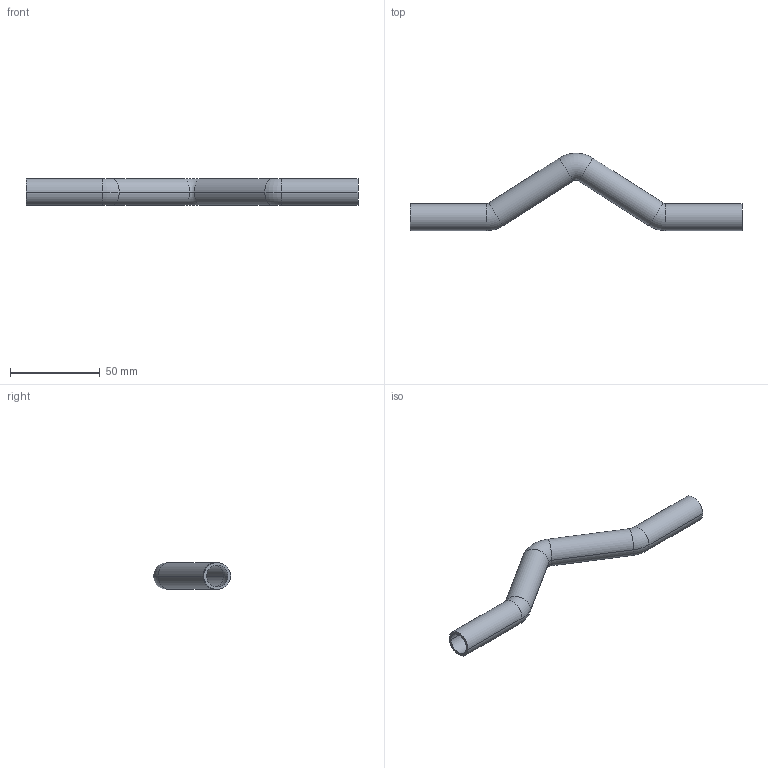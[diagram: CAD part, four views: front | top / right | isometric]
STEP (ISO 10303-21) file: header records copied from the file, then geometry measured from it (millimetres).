
FILE_DESCRIPTION (( 'STEP AP214' ), '1' );
FILE_NAME ('Q150000.STEP', '2025-08-17T13:16:05', ( '' ), ( '' ), 'SwSTEP 2.0', 'SolidWorks 2020', '' );
FILE_SCHEMA (( 'AUTOMOTIVE_DESIGN' ));
Length unit declared in the file: millimetre
Products named in the file (1): Q150000
Bounding box: 185 x 43.09 x 15 mm (x, y, z)
Volume: 12773 mm3; surface area: 17157.9 mm2
Topology: 1 solids, 1 shells, 30 faces, 60 edges, 32 vertices
Faces by surface type: cylinder 16, torus 12, plane 2
Entity records: 1144 total; most frequent: DIRECTION 166, CARTESIAN_POINT 123, ORIENTED_EDGE 120, AXIS2_PLACEMENT_3D 75, EDGE_CURVE 60, CIRCLE 44, UNCERTAINTY_MEASURE_WITH_UNIT 33, EDGE_LOOP 32
